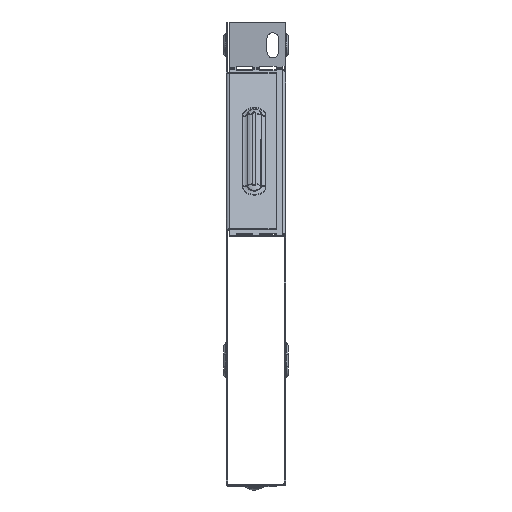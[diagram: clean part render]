
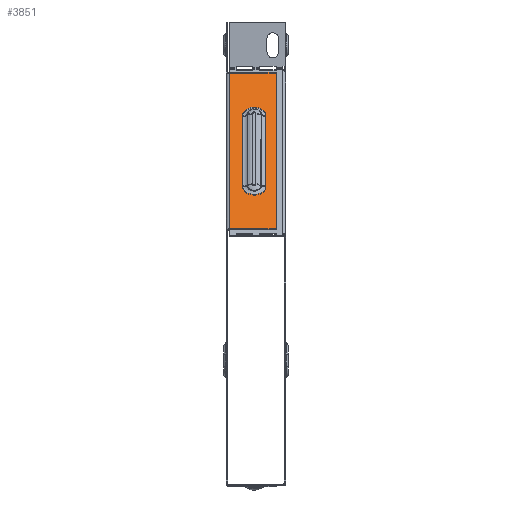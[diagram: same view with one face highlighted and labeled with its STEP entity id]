
A CAD part, left-side view. The second image highlights one B-rep face of the part: STEP entity #3851.
In plain terms, the highlighted planar face has unit normal (-0.707, 0, 0.707).
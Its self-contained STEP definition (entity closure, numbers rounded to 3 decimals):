
#337 = CIRCLE ( 'NONE', #9178, 6.917 ) ;
#780 = ORIENTED_EDGE ( 'NONE', *, *, #2389, .T. ) ;
#916 = ORIENTED_EDGE ( 'NONE', *, *, #11377, .T. ) ;
#921 = CARTESIAN_POINT ( 'NONE',  ( -104.725, 25.817, 222.152 ) ) ;
#1074 = EDGE_CURVE ( 'NONE', #14882, #14620, #12695, .T. ) ;
#1133 = CARTESIAN_POINT ( 'NONE',  ( -163.438, 5.8, 163.438 ) ) ;
#1644 = CARTESIAN_POINT ( 'NONE',  ( -147.152, 25.817, 179.725 ) ) ;
#1653 = VERTEX_POINT ( 'NONE', #8937 ) ;
#1718 = EDGE_CURVE ( 'NONE', #14620, #12848, #15308, .T. ) ;
#2272 = ORIENTED_EDGE ( 'NONE', *, *, #12032, .F. ) ;
#2384 = EDGE_LOOP ( 'NONE', ( #17462, #780, #916, #7331 ) ) ;
#2389 = EDGE_CURVE ( 'NONE', #12848, #1653, #337, .T. ) ;
#2781 = EDGE_LOOP ( 'NONE', ( #4220, #14214, #3336, #2272 ) ) ;
#3336 = ORIENTED_EDGE ( 'NONE', *, *, #17553, .F. ) ;
#3658 = CARTESIAN_POINT ( 'NONE',  ( -147.152, 11.983, 179.725 ) ) ;
#3851 = ADVANCED_FACE ( 'NONE', ( #16635, #11174 ), #4776, .F. ) ;
#4220 = ORIENTED_EDGE ( 'NONE', *, *, #19629, .F. ) ;
#4597 = CARTESIAN_POINT ( 'NONE',  ( -76.838, 34., 250.038 ) ) ;
#4776 = PLANE ( 'NONE',  #15439 ) ;
#4891 = LINE ( 'NONE', #1133, #16510 ) ;
#5568 = DIRECTION ( 'NONE',  ( 0.707, 0., 0.707 ) ) ;
#6285 = DIRECTION ( 'NONE',  ( 0.707, 0., -0.707 ) ) ;
#6463 = VERTEX_POINT ( 'NONE', #17110 ) ;
#6854 = LINE ( 'NONE', #4597, #11138 ) ;
#6950 = CARTESIAN_POINT ( 'NONE',  ( -104.725, 18.9, 222.152 ) ) ;
#7029 = DIRECTION ( 'NONE',  ( -0.5, 0.707, -0.5 ) ) ;
#7331 = ORIENTED_EDGE ( 'NONE', *, *, #1074, .T. ) ;
#7444 = LINE ( 'NONE', #8472, #18602 ) ;
#8472 = CARTESIAN_POINT ( 'NONE',  ( -78.96, 35.8, 247.917 ) ) ;
#8573 = CARTESIAN_POINT ( 'NONE',  ( -147.152, 18.9, 179.725 ) ) ;
#8615 = CARTESIAN_POINT ( 'NONE',  ( -172.917, 34., 153.96 ) ) ;
#8937 = CARTESIAN_POINT ( 'NONE',  ( -104.725, 11.983, 222.152 ) ) ;
#9178 = AXIS2_PLACEMENT_3D ( 'NONE', #6950, #16126, #7029 ) ;
#9284 = VECTOR ( 'NONE', #15865, 1000. ) ;
#9406 = DIRECTION ( 'NONE',  ( -0.707, 0., -0.707 ) ) ;
#9682 = AXIS2_PLACEMENT_3D ( 'NONE', #8573, #17791, #17595 ) ;
#10908 = VECTOR ( 'NONE', #9406, 1000. ) ;
#11138 = VECTOR ( 'NONE', #15349, 1000. ) ;
#11174 = FACE_OUTER_BOUND ( 'NONE', #2781, .T. ) ;
#11377 = EDGE_CURVE ( 'NONE', #1653, #14882, #15176, .T. ) ;
#11501 = DIRECTION ( 'NONE',  ( 0., -1., 0. ) ) ;
#12032 = EDGE_CURVE ( 'NONE', #12370, #19217, #6854, .T. ) ;
#12370 = VERTEX_POINT ( 'NONE', #8615 ) ;
#12695 = CIRCLE ( 'NONE', #9682, 6.917 ) ;
#12848 = VERTEX_POINT ( 'NONE', #921 ) ;
#13017 = CARTESIAN_POINT ( 'NONE',  ( -104.725, 25.817, 222.152 ) ) ;
#13147 = DIRECTION ( 'NONE',  ( 0.707, 0., 0.707 ) ) ;
#13301 = LINE ( 'NONE', #14059, #9284 ) ;
#13637 = VECTOR ( 'NONE', #13147, 1000. ) ;
#14059 = CARTESIAN_POINT ( 'NONE',  ( -172.917, 36.899, 153.96 ) ) ;
#14214 = ORIENTED_EDGE ( 'NONE', *, *, #16639, .T. ) ;
#14620 = VERTEX_POINT ( 'NONE', #1644 ) ;
#14680 = CARTESIAN_POINT ( 'NONE',  ( -78.96, 34., 247.917 ) ) ;
#14882 = VERTEX_POINT ( 'NONE', #3658 ) ;
#15176 = LINE ( 'NONE', #19551, #10908 ) ;
#15308 = LINE ( 'NONE', #13017, #13637 ) ;
#15349 = DIRECTION ( 'NONE',  ( 0.707, 0., 0.707 ) ) ;
#15389 = CARTESIAN_POINT ( 'NONE',  ( -163.438, 35.8, 163.438 ) ) ;
#15439 = AXIS2_PLACEMENT_3D ( 'NONE', #15389, #6285, #15585 ) ;
#15585 = DIRECTION ( 'NONE',  ( -0.707, 0., -0.707 ) ) ;
#15865 = DIRECTION ( 'NONE',  ( 0., 1., 0. ) ) ;
#16126 = DIRECTION ( 'NONE',  ( 0.707, 0., -0.707 ) ) ;
#16221 = VERTEX_POINT ( 'NONE', #17472 ) ;
#16510 = VECTOR ( 'NONE', #5568, 1000. ) ;
#16635 = FACE_BOUND ( 'NONE', #2384, .T. ) ;
#16639 = EDGE_CURVE ( 'NONE', #6463, #16221, #4891, .T. ) ;
#17110 = CARTESIAN_POINT ( 'NONE',  ( -172.917, 5.8, 153.96 ) ) ;
#17462 = ORIENTED_EDGE ( 'NONE', *, *, #1718, .T. ) ;
#17472 = CARTESIAN_POINT ( 'NONE',  ( -78.96, 5.8, 247.917 ) ) ;
#17553 = EDGE_CURVE ( 'NONE', #19217, #16221, #7444, .T. ) ;
#17595 = DIRECTION ( 'NONE',  ( -0.5, 0.707, -0.5 ) ) ;
#17791 = DIRECTION ( 'NONE',  ( 0.707, 0., -0.707 ) ) ;
#18602 = VECTOR ( 'NONE', #11501, 1000. ) ;
#19217 = VERTEX_POINT ( 'NONE', #14680 ) ;
#19551 = CARTESIAN_POINT ( 'NONE',  ( -104.725, 11.983, 222.152 ) ) ;
#19629 = EDGE_CURVE ( 'NONE', #6463, #12370, #13301, .T. ) ;
